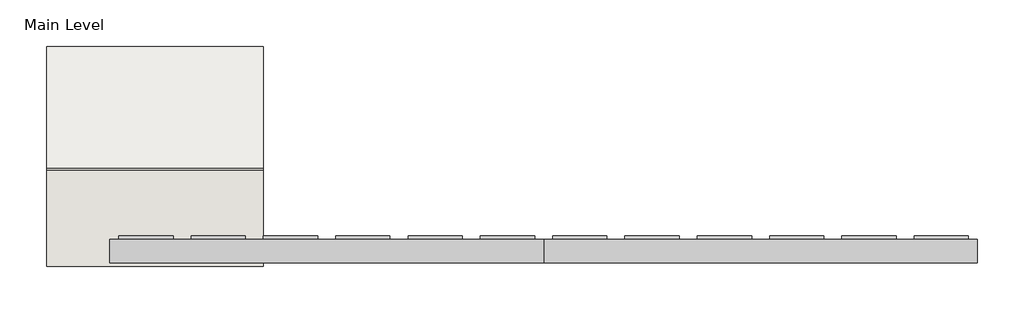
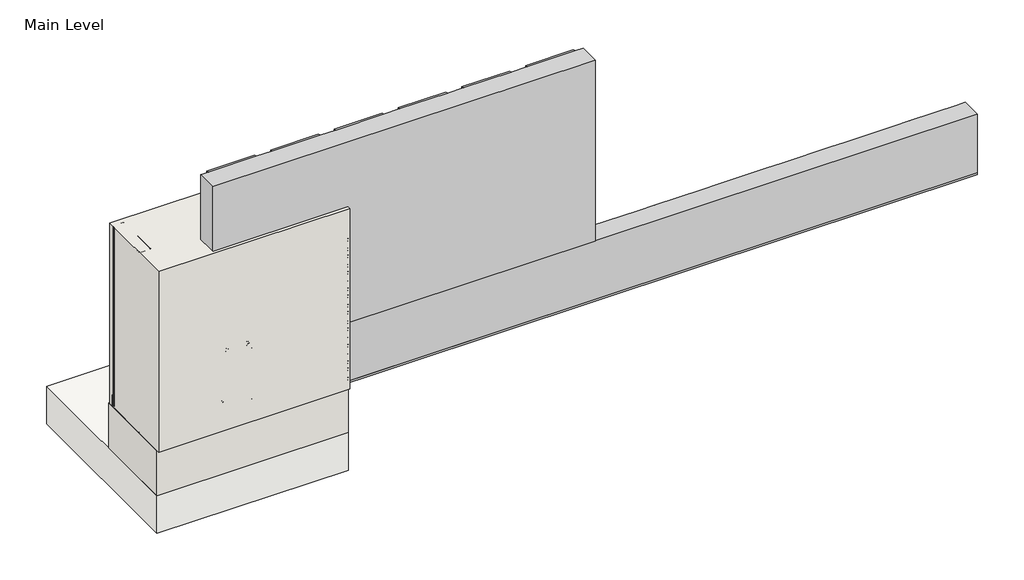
# One storey, incomplete: 10 proxies, 2 walls, 1 slab.
"""IFC4 building model written with IfcOpenShell, lengths in millimetres."""

from ifc_helpers import new_model, si_unit, frame, origin, origin_with_axes, place, context, project, spatial, polyline, outline, extrude, transform, mapped, element, save
from components import generic_models_31547c53, generic_models_0bbfdc8f, generic_models_1e1ad44f, generic_models_7dd17a53, generic_models_441de798, generic_models_9d0e7a2a, generic_models_8c792c9c, proxy_215900e5, proxy_691c8b69, wood_blocking_9d9260b2

model = new_model("IFC4")

# Units and contexts
model_context = context("Model", 3, world=origin())
ifc_project = project(units=[si_unit("LENGTHUNIT", "METRE", prefix="MILLI")], contexts=[model_context])

# Site, building, storey
site = spatial("IfcSite", under=ifc_project)
building = spatial("IfcBuilding", under=site)
storey = spatial("IfcBuildingStorey", under=building, Name="Main Level", Elevation=0.0)

# Proxies
placement = place(None, origin())
generic_models_shape = generic_models_31547c53(model_context)
element("IfcBuildingElementProxy", 1, Name="Durabond Generic Model Sealant Vent : Durabond Generic Model Sealant Vent", ObjectType="Durabond Generic Model Sealant Vent : Durabond Generic Model Sealant Vent", at=placement, inside=storey, context=model_context, shape_type="MappedRepresentation", body=[
    mapped(generic_models_shape, transform((26865.4101773, 546.8432813, 8.5594788), x_axis=(1.0, 0.0, 0.0), y_axis=(0.0, 0.08715574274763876, -0.9961946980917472), z_axis=(0.0, 0.9961946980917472, 0.08715574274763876))),
])
generic_models_2_shape = generic_models_0bbfdc8f(model_context)
generic_models_3_shape = generic_models_1e1ad44f(model_context)
generic_models_4_shape = generic_models_7dd17a53(model_context)
generic_models_5_shape = generic_models_441de798(model_context)
element("IfcBuildingElementProxy", 2, Name="CRAi Generic Model Mesh Piece Face Based : CRAi Generic Model Mesh Piece Face Based", ObjectType="CRAi Generic Model Mesh Piece Face Based : CRAi Generic Model Mesh Piece Face Based", at=placement, inside=storey, context=model_context, shape_type="MappedRepresentation", body=[
    mapped(generic_models_2_shape, transform((26933.6726773, 541.9066297, 261.6963215), x_axis=(-1.0, 0.0, 0.0), y_axis=(0.0, 0.0, -1.0), z_axis=(0.0, -1.0, 0.0))),
    mapped(generic_models_3_shape, transform((26933.6726773, 541.9066297, 261.6963215), x_axis=(-1.0, 0.0, 0.0), y_axis=(0.0, 0.0, -1.0), z_axis=(0.0, -1.0, 0.0))),
    mapped(generic_models_4_shape, transform((26933.6726773, 541.9066297, 261.6963215), x_axis=(-1.0, 0.0, 0.0), y_axis=(0.0, 0.0, -1.0), z_axis=(0.0, -1.0, 0.0))),
    mapped(generic_models_5_shape, transform((26933.6726773, 541.9066297, 261.6963215), x_axis=(-1.0, 0.0, 0.0), y_axis=(0.0, 0.0, -1.0), z_axis=(0.0, -1.0, 0.0))),
])
generic_models_6_shape = generic_models_9d0e7a2a(model_context)
element("IfcBuildingElementProxy", 3, Name="CRAi Generic Model Metal Stud Array : CRAi Generic Model Metal Stud Array", ObjectType="CRAi Generic Model Metal Stud Array : CRAi Generic Model Metal Stud Array", at=placement, inside=storey, context=model_context, shape_type="MappedRepresentation", body=[
    mapped(generic_models_6_shape, transform((26692.3726773, 719.7066297, 6.35), x_axis=(-1.0, 0.0, 0.0), y_axis=(0.0, -1.0, 0.0), z_axis=(0.0, 0.0, 1.0))),
])
generic_models_7_shape = generic_models_8c792c9c(model_context)
element("IfcBuildingElementProxy", 4, Name="Durabond Generic Model Screw w Standard Wall Plate : Durabond Generic Model Screw w Standard Wall Plate", ObjectType="Durabond Generic Model Screw w Standard Wall Plate : Durabond Generic Model Screw w Standard Wall Plate", at=placement, inside=storey, context=model_context, shape_type="MappedRepresentation", body=[
    mapped(generic_models_7_shape, transform((26781.2726773, 544.2878797, 85.242643), x_axis=(1.0, 0.0, 0.0), y_axis=(0.0, 0.0, 1.0), z_axis=(0.0, -1.0, 0.0))),
])
element("IfcBuildingElementProxy", 5, Name="Durabond Generic Model Screw w Standard Wall Plate : Durabond Generic Model Screw w Standard Wall Plate", ObjectType="Durabond Generic Model Screw w Standard Wall Plate : Durabond Generic Model Screw w Standard Wall Plate", at=placement, inside=storey, context=model_context, shape_type="MappedRepresentation", body=[
    mapped(generic_models_7_shape, transform((26781.2726773, 544.2878797, 256.692643), x_axis=(1.0, 0.0, 0.0), y_axis=(0.0, 0.0, 1.0), z_axis=(0.0, -1.0, 0.0))),
])
element("IfcBuildingElementProxy", 6, Name="Durabond Generic Model Screw w Standard Wall Plate : Durabond Generic Model Screw w Standard Wall Plate", ObjectType="Durabond Generic Model Screw w Standard Wall Plate : Durabond Generic Model Screw w Standard Wall Plate", at=placement, inside=storey, context=model_context, shape_type="MappedRepresentation", body=[
    mapped(generic_models_7_shape, transform((26703.4851773, 547.4628797, 85.242643), x_axis=(1.0, 0.0, 0.0), y_axis=(0.0, 0.0, 1.0), z_axis=(0.0, -1.0, 0.0))),
])
element("IfcBuildingElementProxy", 7, Name="Durabond Generic Model Screw w Standard Wall Plate : Durabond Generic Model Screw w Standard Wall Plate", ObjectType="Durabond Generic Model Screw w Standard Wall Plate : Durabond Generic Model Screw w Standard Wall Plate", at=placement, inside=storey, context=model_context, shape_type="MappedRepresentation", body=[
    mapped(generic_models_7_shape, transform((26716.1851773, 547.4628797, 256.692643), x_axis=(1.0, 0.0, 0.0), y_axis=(0.0, 0.0, 1.0), z_axis=(0.0, -1.0, 0.0))),
])
proxy_shape = proxy_215900e5(model_context)
element("IfcBuildingElementProxy", 8, Name="Durabond Generic Model Insulite Select Extruded Insulation Board : 3\"", ObjectType="Durabond Generic Model Insulite Select Extruded Insulation Board : 3\"", at=placement, inside=storey, context=model_context, shape_type="MappedRepresentation", body=[
    mapped(proxy_shape, transform((27276.5726773, 624.4566297, 523.392643), x_axis=(1.0, 0.0, 0.0), y_axis=(0.0, 0.0, 1.0), z_axis=(0.0, -1.0, 0.0))),
])
proxy_2_shape = proxy_691c8b69(model_context)
element("IfcBuildingElementProxy", 9, Name="Durabond Generic Model Insulite Select Extruded Vent Board : 3\"", ObjectType="Durabond Generic Model Insulite Select Extruded Vent Board : 3\"", at=placement, inside=storey, context=model_context, shape_type="MappedRepresentation", body=[
    mapped(proxy_2_shape, transform((27886.1726773, 624.4566297, 116.992643), x_axis=(1.0, 0.0, 0.0), y_axis=(0.0, 0.0, 1.0), z_axis=(0.0, -1.0, 0.0))),
])
wood_blocking_shape = wood_blocking_9d9260b2(model_context)
element("IfcBuildingElementProxy", 10, Name="CRAi Generic Model Line Based Metal Framing Track : Wood Blocking", ObjectType="CRAi Generic Model Line Based Metal Framing Track : Wood Blocking", at=placement, inside=storey, context=model_context, shape_type="MappedRepresentation", body=[
    mapped(wood_blocking_shape, transform((27094.739438, 795.9066297, 0.0), x_axis=(-1.0, 0.0, 0.0), y_axis=(0.0, -1.0, 0.0), z_axis=(0.0, 0.0, 1.0))),
])

# Slab
element("IfcSlab", 11, ObjectType="CRAi Concrete Floor - 5\"", at=placement, inside=storey, context=model_context, shape_type="SweptSolid", body=[
    extrude(outline(polyline([(27098.7726773, 548.2566297), (26489.1726773, 548.2566297), (26489.1726773, 1157.8566297), (27098.7726773, 1157.8566297), (27098.7726773, 548.2566297)])), frame((0.0, 0.0, -279.4), z_axis=(0.0, 0.0, 1.0), x_axis=(1.0, 0.0, 0.0)), (0.0, 0.0, 1.0), 127.0),
])

# Walls
element("IfcWall", 12, ObjectType="189mm (7.5”) EIFS Field Applied on Mtl. Stud Layer - 50mm Grooved Insulation Board Metal Stud Wall(AirStop) 2", at=placement, inside=storey, context=model_context, shape_type="SweptSolid", body=[
    extrude(outline(polyline([(27098.7726773, 538.7316297), (26489.1726773, 538.7316297), (26489.1726773, 808.6066297), (27098.7726773, 808.6066297), (27098.7726773, 538.7316297)])), origin_with_axes(), (0.0, 0.0, 1.0), 609.6),
])
element("IfcWall", 13, ObjectType="Durabond 10.5\" Concrete Curb", at=placement, inside=storey, context=model_context, shape_type="SweptSolid", body=[
    extrude(outline(polyline([(27098.7726773, 548.2566297), (26489.1726773, 548.2566297), (26489.1726773, 814.9566297), (27098.7726773, 814.9566297), (27098.7726773, 548.2566297)])), frame((0.0, 0.0, -152.4), z_axis=(0.0, 0.0, 1.0), x_axis=(1.0, 0.0, 0.0)), (0.0, 0.0, 1.0), 152.4),
])

save(model, "model.ifc")
